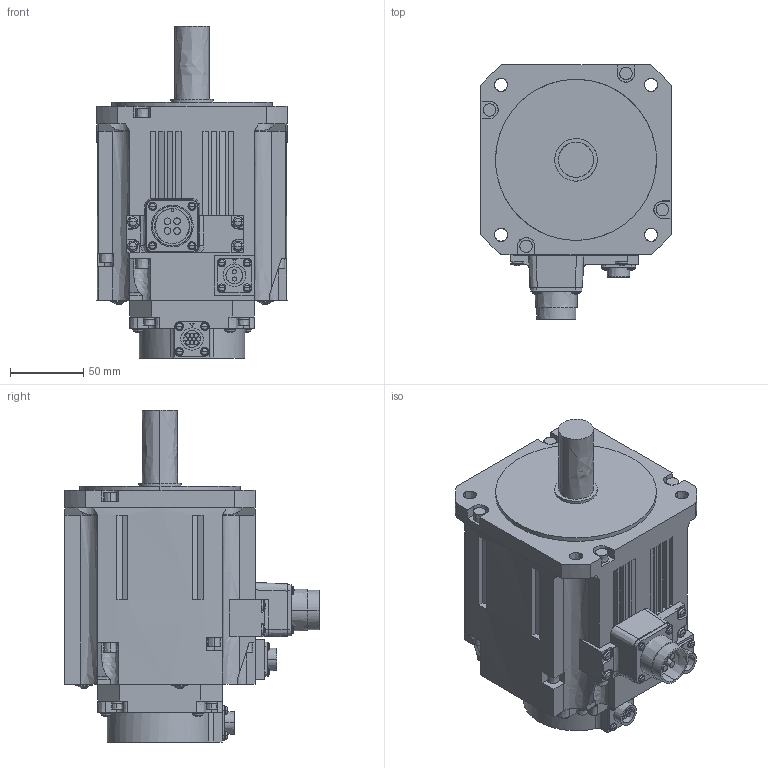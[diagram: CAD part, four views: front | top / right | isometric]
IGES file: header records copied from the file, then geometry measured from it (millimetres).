
Start section:  PTC IGES file: hk-st172wb_.igs
Global section: file name: hk-st172wb_.igs; native system: Creo Parametric by PTC Inc.; preprocessor: 2016380; author: XE90682; organization: Unknown; date: 20190117.170200; units: millimetre
Bounding box: 130 x 173.8 x 227 mm (x, y, z)
Volume: 2280349.2 mm3; surface area: 138080.1 mm2
Topology: 1 solids, 1 shells, 624 faces, 1534 edges, 968 vertices
Faces by surface type: bspline 624
